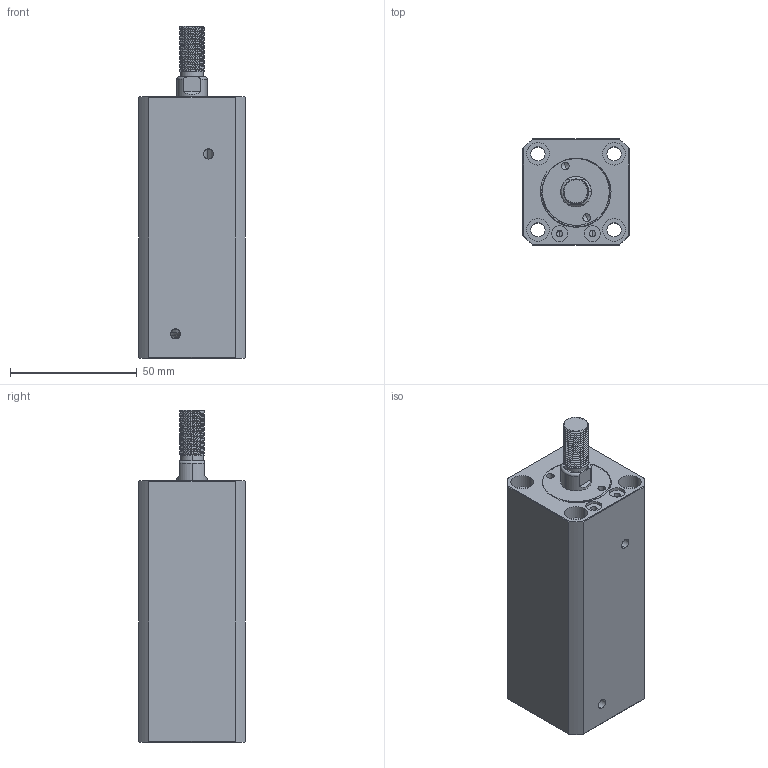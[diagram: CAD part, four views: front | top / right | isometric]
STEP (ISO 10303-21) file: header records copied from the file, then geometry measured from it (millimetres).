
FILE_DESCRIPTION (( 'STEP AP214' ), '1' );
FILE_NAME ('chtb-sdma20x60w_asm.STEP', '2018-05-18T04:42:12', ( 'Windows' ), ( 'Microsoft' ), 'SwSTEP 2.0', 'SolidWorks 2015', '' );
FILE_SCHEMA (( 'AUTOMOTIVE_DESIGN' ));
Length unit declared in the file: millimetre
Products named in the file (4): QG_3; CHTB-SDMA20X60WHSG; CHTB-SDMA20X60NBT; chtb-sdma20x60w_asm
Assembly tree (3 placements, depth 2):
  chtb-sdma20x60w_asm
    CHTB-SDMA20X60NBT
    CHTB-SDMA20X60WHSG
    QG_3
Bounding box: 42 x 42 x 131 mm (x, y, z)
Volume: 154744.7 mm3; surface area: 45407 mm2
Topology: 3 solids, 3 shells, 247 faces, 671 edges, 446 vertices
Faces by surface type: cylinder 144, plane 48, torus 25, bspline 23, cone 7
Entity records: 14895 total; most frequent: CARTESIAN_POINT 9018, ORIENTED_EDGE 1334, DIRECTION 1075, EDGE_CURVE 667, VERTEX_POINT 446, AXIS2_PLACEMENT_3D 441, EDGE_LOOP 285, FACE_OUTER_BOUND 247
